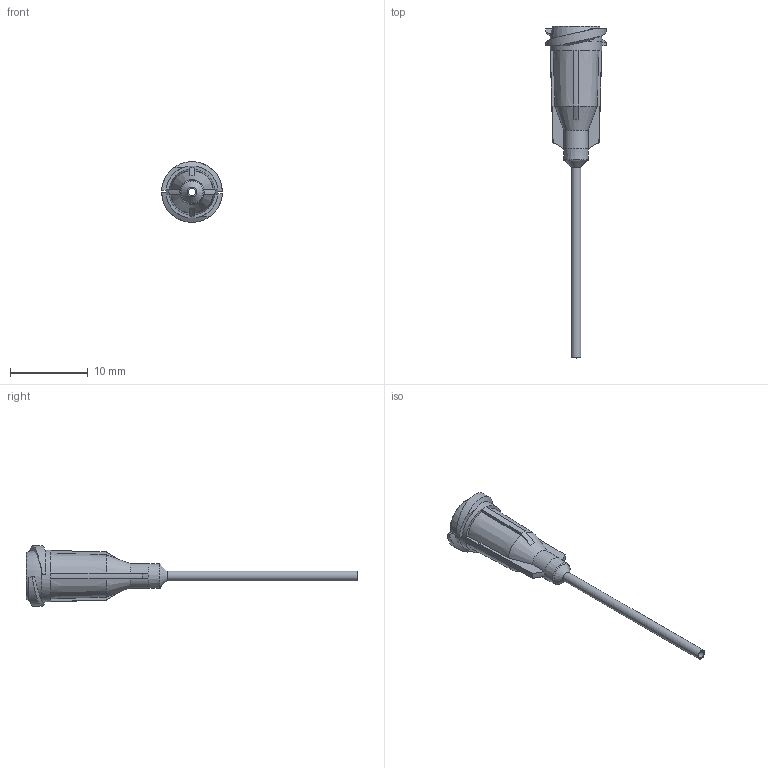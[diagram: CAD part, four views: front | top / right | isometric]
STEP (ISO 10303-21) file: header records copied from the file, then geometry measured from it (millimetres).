
FILE_DESCRIPTION (( 'STEP AP214' ), '1' );
FILE_NAME ('DAV TE 18 10.STEP', '2023-09-29T06:09:42', ( '' ), ( '' ), 'SwSTEP 2.0', 'SolidWorks 2022', '' );
FILE_SCHEMA (( 'AUTOMOTIVE_DESIGN' ));
Length unit declared in the file: millimetre
Products named in the file (1): DAV TE 18 10
Bounding box: 7.82 x 42.77 x 7.81 mm (x, y, z)
Volume: 271.9 mm3; surface area: 718.4 mm2
Topology: 1 solids, 1 shells, 63 faces, 161 edges, 101 vertices
Faces by surface type: plane 23, cone 16, bspline 10, cylinder 7, torus 7
Full cylindrical faces by diameter (mm): 0.99 x1, 1.27 x1, 2.87 x1, 6.655 x1
Entity records: 2066 total; most frequent: CARTESIAN_POINT 796, ORIENTED_EDGE 262, DIRECTION 228, EDGE_CURVE 131, AXIS2_PLACEMENT_3D 99, VERTEX_POINT 89, EDGE_LOOP 80, FACE_OUTER_BOUND 71
